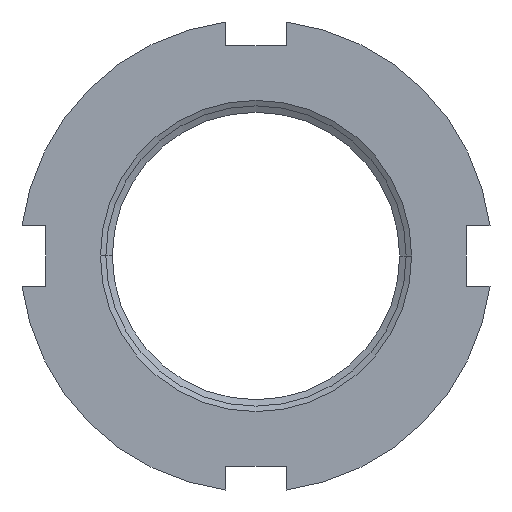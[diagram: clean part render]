
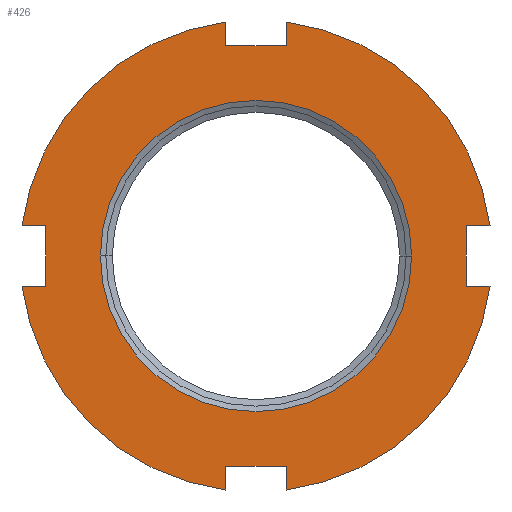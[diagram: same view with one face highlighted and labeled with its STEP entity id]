
A CAD part, front view. The second image highlights one B-rep face of the part: STEP entity #426.
In plain terms, the highlighted planar face has unit normal (0, -1, 0).
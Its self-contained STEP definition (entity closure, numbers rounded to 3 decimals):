
#1=DIRECTION('',(1.,0.,0.));
#2=VECTOR('',#1,2.776);
#3=CARTESIAN_POINT('',(-27.276,0.,-3.5));
#4=LINE('',#3,#2);
#5=DIRECTION('',(0.,0.,1.));
#6=VECTOR('',#5,7.);
#7=CARTESIAN_POINT('',(-24.5,0.,-3.5));
#8=LINE('',#7,#6);
#9=DIRECTION('',(-1.,0.,0.));
#10=VECTOR('',#9,2.776);
#11=CARTESIAN_POINT('',(-24.5,0.,3.5));
#12=LINE('',#11,#10);
#13=DIRECTION('',(0.,0.,-1.));
#14=VECTOR('',#13,2.776);
#15=CARTESIAN_POINT('',(-3.5,0.,27.276));
#16=LINE('',#15,#14);
#17=DIRECTION('',(1.,0.,0.));
#18=VECTOR('',#17,7.);
#19=CARTESIAN_POINT('',(-3.5,0.,24.5));
#20=LINE('',#19,#18);
#21=DIRECTION('',(0.,0.,1.));
#22=VECTOR('',#21,2.776);
#23=CARTESIAN_POINT('',(3.5,0.,24.5));
#24=LINE('',#23,#22);
#25=DIRECTION('',(-1.,0.,0.));
#26=VECTOR('',#25,2.776);
#27=CARTESIAN_POINT('',(27.276,0.,3.5));
#28=LINE('',#27,#26);
#29=DIRECTION('',(0.,0.,-1.));
#30=VECTOR('',#29,7.);
#31=CARTESIAN_POINT('',(24.5,0.,3.5));
#32=LINE('',#31,#30);
#33=DIRECTION('',(1.,0.,0.));
#34=VECTOR('',#33,2.776);
#35=CARTESIAN_POINT('',(24.5,0.,-3.5));
#36=LINE('',#35,#34);
#37=DIRECTION('',(0.,0.,1.));
#38=VECTOR('',#37,2.776);
#39=CARTESIAN_POINT('',(3.5,0.,-27.276));
#40=LINE('',#39,#38);
#41=DIRECTION('',(-1.,0.,0.));
#42=VECTOR('',#41,7.);
#43=CARTESIAN_POINT('',(3.5,0.,-24.5));
#44=LINE('',#43,#42);
#45=DIRECTION('',(0.,0.,-1.));
#46=VECTOR('',#45,2.776);
#47=CARTESIAN_POINT('',(-3.5,0.,-24.5));
#48=LINE('',#47,#46);
#49=CARTESIAN_POINT('',(0.,0.,0.));
#50=DIRECTION('',(0.,1.,0.));
#51=DIRECTION('',(1.,0.,0.));
#52=AXIS2_PLACEMENT_3D('',#49,#50,#51);
#54=CARTESIAN_POINT('',(0.,0.,0.));
#55=DIRECTION('',(0.,1.,0.));
#56=DIRECTION('',(-1.,0.,0.));
#57=AXIS2_PLACEMENT_3D('',#54,#55,#56);
#63=CARTESIAN_POINT('',(0.,0.,0.));
#64=DIRECTION('',(0.,-1.,0.));
#65=DIRECTION('',(0.992,0.,0.127));
#66=AXIS2_PLACEMENT_3D('',#63,#64,#65);
#81=CARTESIAN_POINT('',(0.,0.,0.));
#82=DIRECTION('',(0.,-1.,0.));
#83=DIRECTION('',(0.127,0.,-0.992));
#84=AXIS2_PLACEMENT_3D('',#81,#82,#83);
#99=CARTESIAN_POINT('',(0.,0.,0.));
#100=DIRECTION('',(0.,-1.,0.));
#101=DIRECTION('',(-0.992,0.,-0.127));
#102=AXIS2_PLACEMENT_3D('',#99,#100,#101);
#126=CARTESIAN_POINT('',(0.,0.,0.));
#127=DIRECTION('',(0.,-1.,0.));
#128=DIRECTION('',(-0.127,0.,0.992));
#129=AXIS2_PLACEMENT_3D('',#126,#127,#128);
#301=CARTESIAN_POINT('',(-3.5,0.,27.276));
#302=CARTESIAN_POINT('',(-3.5,0.,24.5));
#303=VERTEX_POINT('',#301);
#304=VERTEX_POINT('',#302);
#305=CARTESIAN_POINT('',(3.5,0.,24.5));
#306=VERTEX_POINT('',#305);
#307=CARTESIAN_POINT('',(3.5,0.,27.276));
#308=VERTEX_POINT('',#307);
#317=CARTESIAN_POINT('',(27.276,0.,3.5));
#318=CARTESIAN_POINT('',(24.5,0.,3.5));
#319=VERTEX_POINT('',#317);
#320=VERTEX_POINT('',#318);
#321=CARTESIAN_POINT('',(24.5,0.,-3.5));
#322=VERTEX_POINT('',#321);
#323=CARTESIAN_POINT('',(27.276,0.,-3.5));
#324=VERTEX_POINT('',#323);
#333=CARTESIAN_POINT('',(3.5,0.,-27.276));
#334=CARTESIAN_POINT('',(3.5,0.,-24.5));
#335=VERTEX_POINT('',#333);
#336=VERTEX_POINT('',#334);
#337=CARTESIAN_POINT('',(-3.5,0.,-24.5));
#338=VERTEX_POINT('',#337);
#339=CARTESIAN_POINT('',(-3.5,0.,-27.276));
#340=VERTEX_POINT('',#339);
#349=CARTESIAN_POINT('',(-27.276,0.,-3.5));
#350=CARTESIAN_POINT('',(-24.5,0.,-3.5));
#351=VERTEX_POINT('',#349);
#352=VERTEX_POINT('',#350);
#353=CARTESIAN_POINT('',(-24.5,0.,3.5));
#354=VERTEX_POINT('',#353);
#355=CARTESIAN_POINT('',(-27.276,0.,3.5));
#356=VERTEX_POINT('',#355);
#377=CARTESIAN_POINT('',(18.136,0.,0.));
#378=CARTESIAN_POINT('',(-18.136,0.,0.));
#379=VERTEX_POINT('',#377);
#380=VERTEX_POINT('',#378);
#381=CARTESIAN_POINT('',(0.,0.,0.));
#382=DIRECTION('',(0.,1.,0.));
#383=DIRECTION('',(1.,0.,0.));
#384=AXIS2_PLACEMENT_3D('',#381,#382,#383);
#385=PLANE('',#384);
#387=ORIENTED_EDGE('',*,*,#386,.T.);
#389=ORIENTED_EDGE('',*,*,#388,.T.);
#391=ORIENTED_EDGE('',*,*,#390,.T.);
#393=ORIENTED_EDGE('',*,*,#392,.F.);
#395=ORIENTED_EDGE('',*,*,#394,.T.);
#397=ORIENTED_EDGE('',*,*,#396,.T.);
#399=ORIENTED_EDGE('',*,*,#398,.T.);
#401=ORIENTED_EDGE('',*,*,#400,.F.);
#403=ORIENTED_EDGE('',*,*,#402,.T.);
#405=ORIENTED_EDGE('',*,*,#404,.T.);
#407=ORIENTED_EDGE('',*,*,#406,.T.);
#409=ORIENTED_EDGE('',*,*,#408,.F.);
#411=ORIENTED_EDGE('',*,*,#410,.T.);
#413=ORIENTED_EDGE('',*,*,#412,.T.);
#415=ORIENTED_EDGE('',*,*,#414,.T.);
#417=ORIENTED_EDGE('',*,*,#416,.F.);
#418=EDGE_LOOP('',(#387,#389,#391,#393,#395,#397,#399,#401,#403,#405,#407,#409,
#411,#413,#415,#417));
#419=FACE_OUTER_BOUND('',#418,.F.);
#421=ORIENTED_EDGE('',*,*,#420,.F.);
#423=ORIENTED_EDGE('',*,*,#422,.F.);
#424=EDGE_LOOP('',(#421,#423));
#425=FACE_BOUND('',#424,.F.);
#426=ADVANCED_FACE('',(#419,#425),#385,.F.);
#53=CIRCLE('',#52,18.136);
#58=CIRCLE('',#57,18.136);
#67=CIRCLE('',#66,27.5);
#85=CIRCLE('',#84,27.5);
#103=CIRCLE('',#102,27.5);
#130=CIRCLE('',#129,27.5);
#386=EDGE_CURVE('',#351,#352,#4,.T.);
#388=EDGE_CURVE('',#352,#354,#8,.T.);
#390=EDGE_CURVE('',#354,#356,#12,.T.);
#392=EDGE_CURVE('',#303,#356,#130,.T.);
#394=EDGE_CURVE('',#303,#304,#16,.T.);
#396=EDGE_CURVE('',#304,#306,#20,.T.);
#398=EDGE_CURVE('',#306,#308,#24,.T.);
#400=EDGE_CURVE('',#319,#308,#67,.T.);
#402=EDGE_CURVE('',#319,#320,#28,.T.);
#404=EDGE_CURVE('',#320,#322,#32,.T.);
#406=EDGE_CURVE('',#322,#324,#36,.T.);
#408=EDGE_CURVE('',#335,#324,#85,.T.);
#410=EDGE_CURVE('',#335,#336,#40,.T.);
#412=EDGE_CURVE('',#336,#338,#44,.T.);
#414=EDGE_CURVE('',#338,#340,#48,.T.);
#416=EDGE_CURVE('',#351,#340,#103,.T.);
#420=EDGE_CURVE('',#379,#380,#53,.T.);
#422=EDGE_CURVE('',#380,#379,#58,.T.);
